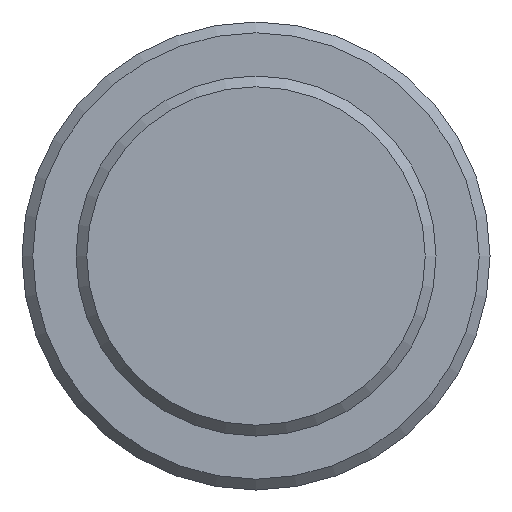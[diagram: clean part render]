
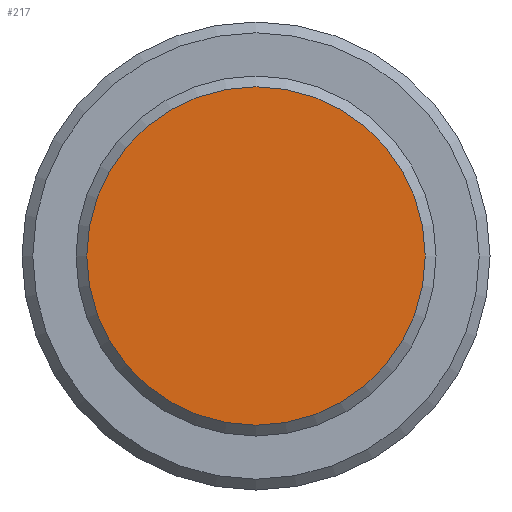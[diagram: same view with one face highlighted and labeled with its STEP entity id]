
A CAD part, front view. The second image highlights one B-rep face of the part: STEP entity #217.
In plain terms, the highlighted planar face has unit normal (0, -1, 0).
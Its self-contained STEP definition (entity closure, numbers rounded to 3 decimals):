
#16=PLANE('',#267);
#51=FACE_OUTER_BOUND('',#65,.T.);
#65=EDGE_LOOP('',(#177));
#87=CIRCLE('',#265,4.7);
#107=VERTEX_POINT('',#396);
#131=EDGE_CURVE('',#107,#107,#87,.T.);
#177=ORIENTED_EDGE('',*,*,#131,.F.);
#217=ADVANCED_FACE('',(#51),#16,.T.);
#265=AXIS2_PLACEMENT_3D('',#398,#321,#322);
#267=AXIS2_PLACEMENT_3D('',#401,#326,#327);
#321=DIRECTION('center_axis',(0.,1.,0.));
#322=DIRECTION('ref_axis',(-1.,0.,0.));
#326=DIRECTION('center_axis',(0.,-1.,0.));
#327=DIRECTION('ref_axis',(0.,0.,-1.));
#396=CARTESIAN_POINT('',(4.7,0.,0.));
#398=CARTESIAN_POINT('Origin',(0.,0.,0.));
#401=CARTESIAN_POINT('Origin',(5.,0.,0.));
